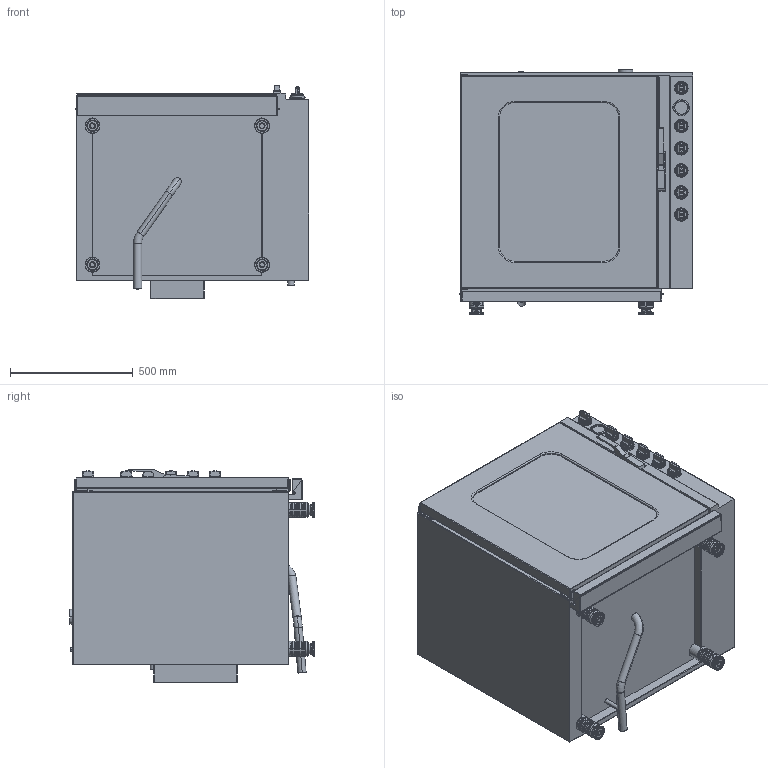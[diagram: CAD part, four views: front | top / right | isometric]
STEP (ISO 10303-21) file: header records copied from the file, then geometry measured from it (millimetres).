
FILE_DESCRIPTION((''),'2;1');
FILE_NAME('CFE910CV_INV_EXPORT_STEP_ASM','2018-01-31T11:33:29',('m.grapin'),(''),'CREO PARAMETRIC BY PTC INC, 2017260','CREO PARAMETRIC BY PTC INC, 2017260','');
FILE_SCHEMA(('AP203_CONFIGURATION_CONTROLLED_3D_DESIGN_OF_MECHANICAL_PARTS_AND_ASSEMBLIES_MIM_LF { 1 0 10303 403 2 1 2 }'));
Length unit declared in the file: millimetre
Products named in the file (6): CFE910CV_INV_EXPORT_STEP; 65141002; 6532023POIGNEE; MANETTE_AMB_COLLERETTE_CHROMEE; 65224012; CFE910CV_INV_EXPORT_STEP_ASM
Assembly tree (13 placements, depth 2):
  CFE910CV_INV_EXPORT_STEP_ASM
    CFE910CV_INV_EXPORT_STEP
    65141002  x4
    6532023POIGNEE
    MANETTE_AMB_COLLERETTE_CHROMEE  x6
    65224012
Bounding box: 951 x 993.7 x 868.03 mm (x, y, z)
Volume: 615712869.1 mm3; surface area: 5776949.9 mm2
Topology: 13 solids, 17 shells, 1423 faces, 3148 edges, 1963 vertices
Faces by surface type: cylinder 618, plane 450, cone 164, torus 90, bspline 72, sphere 29
Entity records: 22419 total; most frequent: CARTESIAN_POINT 4844, DIRECTION 3056, ORIENTED_EDGE 2722, EDGE_CURVE 1361, AXIS2_PLACEMENT_3D 1185, VERTEX_POINT 850, EDGE_LOOP 693, VECTOR 668
